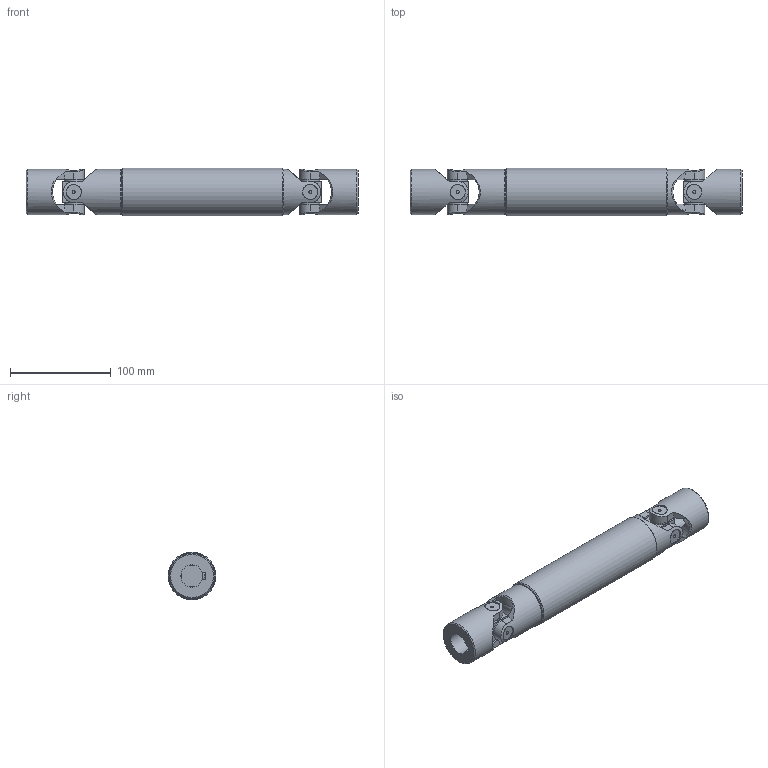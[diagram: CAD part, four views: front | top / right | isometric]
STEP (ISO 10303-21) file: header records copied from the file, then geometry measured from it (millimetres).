
FILE_DESCRIPTION(/* description */ (''),/* implementation_level */ '2;1');
FILE_NAME(/* name */ '\\SRV2016\Societa\Stefano\Disegni 3D\00Catalogo 3D\03Trasmissioni standard GA\4GA20\4GA20_SG0A2220.stp',/* time_stamp */ '2022-03-15T14:57:43+01:00',/* author */ ('acquisti'),/* organization */ (''),/* preprocessor_version */ 'ST-DEVELOPER v15.6',/* originating_system */ 'Autodesk Inventor 2015',/* authorisation */ '');
FILE_SCHEMA (('AUTOMOTIVE_DESIGN { 1 0 10303 214 3 1 1 }'));
Length unit declared in the file: millimetre
Products named in the file (5): 4G MOC; 4GA SFE; 4GA20 LCI; 4GA20 LAI; 4GA20_SG0A2220
Assembly tree (6 placements, depth 2):
  4GA20_SG0A2220
    4G MOC  x2
    4GA SFE  x2
    4GA20 LCI
    4GA20 LAI
Bounding box: 330 x 47.5 x 47.5 mm (x, y, z)
Volume: 395201.5 mm3; surface area: 105081.8 mm2
Topology: 6 solids, 6 shells, 204 faces, 513 edges, 345 vertices
Faces by surface type: plane 106, cylinder 69, cone 25, torus 4
Full cylindrical faces by diameter (mm): 3 x8, 15 x8, 19 x8, 22 x1, 23 x2, 39 x1, 45 x4, 47.5 x1
Entity records: 5283 total; most frequent: CARTESIAN_POINT 1527, DIRECTION 751, ORIENTED_EDGE 736, EDGE_CURVE 368, AXIS2_PLACEMENT_3D 299, VERTEX_POINT 268, EDGE_LOOP 212, FACE_OUTER_BOUND 158
